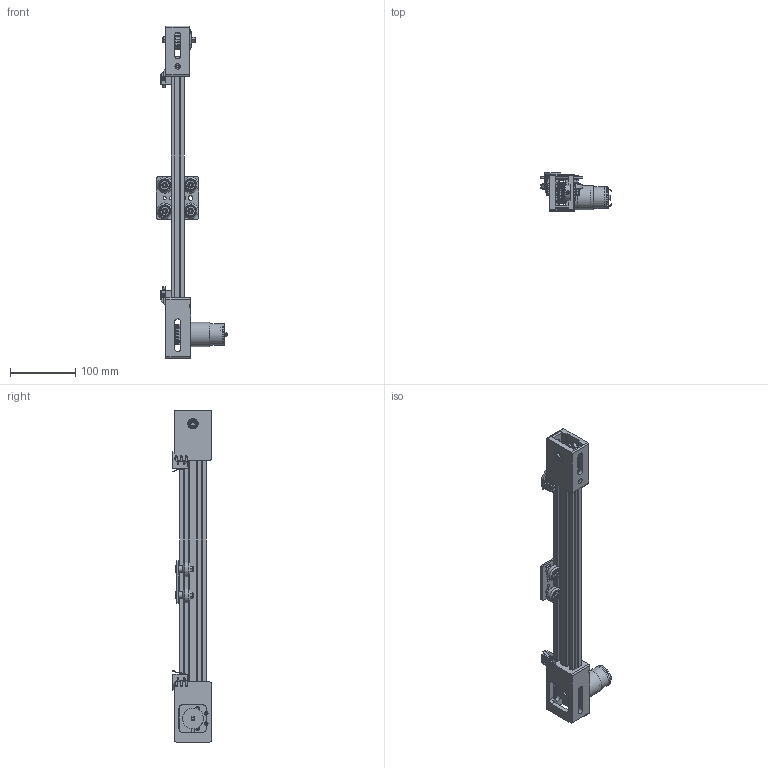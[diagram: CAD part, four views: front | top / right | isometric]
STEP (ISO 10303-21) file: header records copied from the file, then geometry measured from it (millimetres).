
FILE_DESCRIPTION(/* description */ (''),/* implementation_level */ '2;1');
FILE_NAME(/* name */ 'Assieme_slider_2040_370_v2.stp',/* time_stamp */ '2025-10-14T20:20:18+02:00',/* author */ ('R5800u'),/* organization */ (''),/* preprocessor_version */ 'ST-DEVELOPER v20',/* originating_system */ 'Autodesk Inventor 2025',/* authorisation */ '');
FILE_SCHEMA (('AUTOMOTIVE_DESIGN { 1 0 10303 214 3 1 1 }'));
Length unit declared in the file: millimetre
Products named in the file (36): Assieme_slider_2040_370; 20x40x250mm; 20mm Gantry Set; 20mm gantry plate; V-Wheel Solid Wheel; Eccentric Spacer; V-Wheel Solid Wheel - spacer; Solid V-Wheel; Ball Bearing 625 2RS 5x16x5; 1mm 5mm shim; 6mm Spacer; M5 Nylock; M5x25 low profile screw; AS 1427 - M5 x 45; AS 1237 - 5; Assieme_tendi_cinghia; blocco_puleggia_cuscinetti; %3% BS 290 - SKF 625; AS 1420 - 1973 - M5 x 40; AS 1421 - M3 x 8 Punta a coppa; AS 1112 - M5  Tipo 5; blocco_nema2; JGB37-520_MIR_MIR; puleggia_40Tb; blocco_finecrosa_2; Microswitch-SS-3GL13SL_MIR; limit-switch-bottomcase_MIR; limit-switch-top-case_MIR; pins_MIR; switch_lever_MIR; blocco_finecrosa_2_MIR1; Microswitch-SS-3GL13SL_MIR_MIR; limit-switch-bottomcase_MIR_MIR; limit-switch-top-case_MIR_MIR; pins_MIR_MIR; switch_lever_MIR_MIR
Assembly tree (50 placements, depth 4):
  Assieme_slider_2040_370
    20x40x250mm
    20mm Gantry Set
      20mm gantry plate
      V-Wheel Solid Wheel  x2
        Solid V-Wheel
        Ball Bearing 625 2RS 5x16x5
        Eccentric Spacer
        1mm 5mm shim
      V-Wheel Solid Wheel - spacer  x2
        Solid V-Wheel
        Ball Bearing 625 2RS 5x16x5
        1mm 5mm shim
        6mm Spacer
      M5x25 low profile screw  x4
      M5 Nylock  x4
    AS 1427 - M5 x 45
    AS 1237 - 5
    Assieme_tendi_cinghia
      blocco_puleggia_cuscinetti
      puleggia_40Tb
      %3% BS 290 - SKF 625  x2
      AS 1420 - 1973 - M5 x 40
      AS 1421 - M3 x 8 Punta a coppa
    AS 1112 - M5  Tipo 5
    blocco_nema2
    JGB37-520_MIR_MIR
    puleggia_40Tb
    blocco_finecrosa_2
    Microswitch-SS-3GL13SL_MIR
      limit-switch-bottomcase_MIR
      limit-switch-top-case_MIR
      pins_MIR
      switch_lever_MIR
    blocco_finecrosa_2_MIR1
    Microswitch-SS-3GL13SL_MIR_MIR
      limit-switch-bottomcase_MIR_MIR
      limit-switch-top-case_MIR_MIR
      pins_MIR_MIR
      switch_lever_MIR_MIR
Bounding box: 109.63 x 59 x 509 mm (x, y, z)
Volume: 382096.9 mm3; surface area: 250543.1 mm2
Topology: 66 solids, 66 shells, 2029 faces, 5292 edges, 3491 vertices
Faces by surface type: plane 1145, cylinder 691, bspline 66, torus 62, cone 44, sphere 21
Full cylindrical faces by diameter (mm): 1.1 x8, 1.2 x14, 1.6 x7, 1.75 x2, 2 x3, 2.2 x4, 2.5 x14, 2.6 x3, 3 x1, 3.2 x8, 4 x3, 4.018 x1, 4.134 x1, 4.2 x5, 4.3 x2, 5 x38, 5.1 x2, 5.3 x1, 5.5 x2, 6 x10, 7 x16, 7.12 x2, 7.2 x3, 7.5 x1, 8 x2, 8.5 x1, 8.52 x4, 9.5 x1, 10 x7, 11 x4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
Entity records: 57299 total; most frequent: CARTESIAN_POINT 15605, ORIENTED_EDGE 8246, DIRECTION 8026, EDGE_CURVE 4123, VERTEX_POINT 2723, AXIS2_PLACEMENT_3D 2678, LINE 2670, VECTOR 2670
